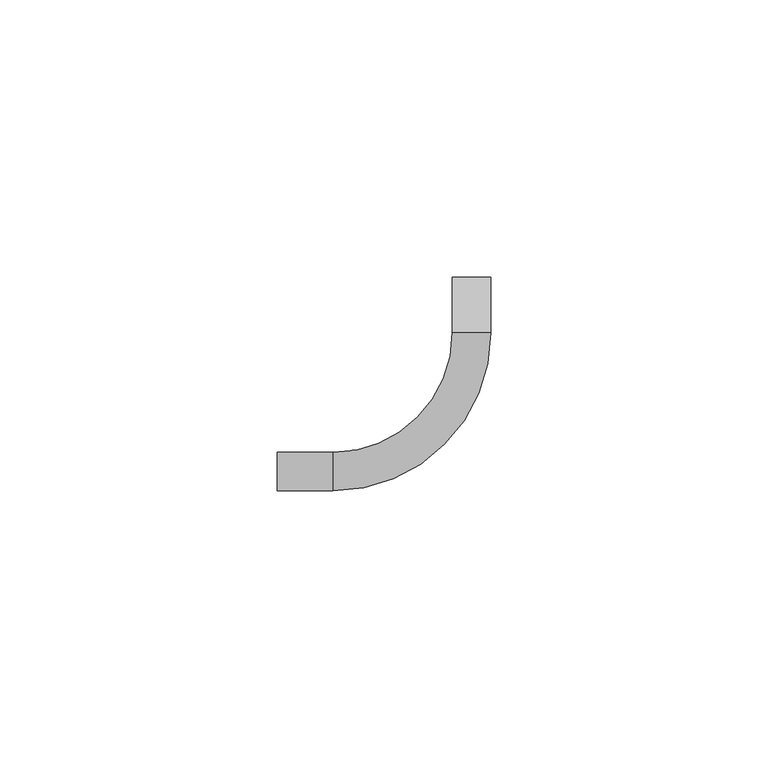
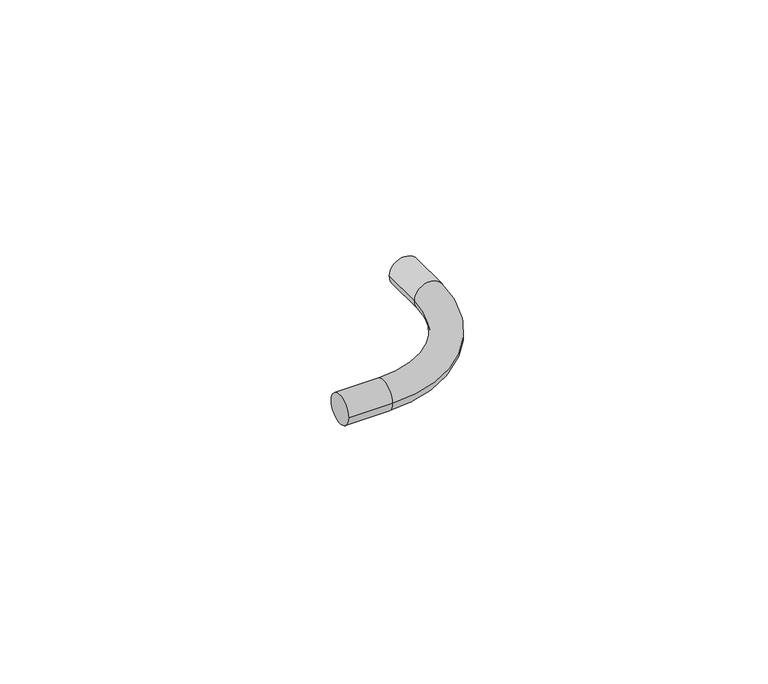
"""IFC4 building model written with IfcOpenShell, lengths in millimetres: cable carrier fitting geometry, Danfoss Elbow : DEVIaqua™ 9T, 230V."""

from ifc_helpers import new_model, si_unit, point, frame, origin, place, context, project, spatial, circle_curve, ellipse_curve, trimmed, source, transform, mapped, element, save
from ifc_brep_helpers import plane_surface, cylinder_surface, revolved_surface, advanced_brep


def cable_carrier_fitting_e4b1aeb6(model_context):
    return source(origin(), model_context, "Body", "AdvancedBrep", [
        advanced_brep(
        [(-35.0, -3.45, 0.0), (-35.0, 3.45, 0.0), (-25.0, -3.45, 0.0), (-25.0, 3.45, 0.0), (-3.45, 25.0, 0.0), (3.45, 25.0, 0.0), (3.45, 35.0, 0.0), (-3.45, 35.0, 0.0)],
        [
            (0, 1, circle_curve(frame((-35.0, 0.0, 0.0), z_axis=(-1.0, 0.0, 0.0), x_axis=(0.0, 1.0, 0.0)), 3.45)),
            (1, 0, circle_curve(frame((-35.0, 0.0, 0.0), z_axis=(-1.0, 0.0, 0.0), x_axis=(0.0, 1.0, 0.0)), 3.45)),
            (0, 2),
            (2, 3, circle_curve(frame((-25.0, 0.0, 0.0), z_axis=(-1.0, 0.0, 0.0), x_axis=(0.0, 1.0, 0.0)), 3.45)),
            (3, 1),
            (3, 2, circle_curve(frame((-25.0, 0.0, 0.0), z_axis=(-1.0, 0.0, 0.0), x_axis=(0.0, 1.0, 0.0)), 3.45)),
            (4, 3, circle_curve(frame((-25.0, 25.0, 0.0), z_axis=(0.0, 0.0, -1.0), x_axis=(0.0, -1.0, 0.0)), 21.55)),
            (2, 5, circle_curve(frame((-25.0, 25.0, 0.0), z_axis=(0.0, 0.0, 1.0), x_axis=(0.0, -1.0, 0.0)), 28.45)),
            (5, 4, circle_curve(frame((0.0, 25.0, 0.0), z_axis=(0.0, -1.0, 0.0), x_axis=(-1.0, 0.0, 0.0)), 3.45)),
            (4, 5, circle_curve(frame((0.0, 25.0, 0.0), z_axis=(0.0, -1.0, 0.0), x_axis=(-1.0, 0.0, 0.0)), 3.45)),
            (6, 7, circle_curve(frame((0.0, 35.0, 0.0), z_axis=(0.0, 1.0, 0.0), x_axis=(-1.0, 0.0, 0.0)), 3.45)),
            (7, 6, circle_curve(frame((0.0, 35.0, 0.0), z_axis=(0.0, 1.0, 0.0), x_axis=(-1.0, 0.0, 0.0)), 3.45)),
            (5, 6),
            (7, 4),
        ],
        [
            plane_surface(frame((-35.0, 0.0, 0.0), z_axis=(-1.0, 0.0, 0.0), x_axis=(0.0, 0.0, 1.0))),
            cylinder_surface(frame((-35.0, 0.0, 0.0), z_axis=(-1.0, 0.0, 0.0), x_axis=(0.0, 1.0, 0.0)), 3.45),
            revolved_surface(trimmed(ellipse_curve(frame((-25.0, 0.0, 0.0), z_axis=(-1.0, 0.0, 0.0), x_axis=(0.0, 1.0, 0.0)), 3.45, 3.45), [point((-25.0, -3.45, 0.0))], [point((-25.0, 3.45, 0.0))], True, "CARTESIAN"), (-25.0, 25.0, 0.0), (0.0, 0.0, 1.0)),
            revolved_surface(trimmed(ellipse_curve(frame((-25.0, 0.0, 0.0), z_axis=(-1.0, 0.0, 0.0), x_axis=(0.0, 1.0, 0.0)), 3.45, 3.45), [point((-25.0, 3.45, 0.0))], [point((-25.0, -3.45, 0.0))], True, "CARTESIAN"), (-25.0, 25.0, 0.0), (0.0, 0.0, 1.0)),
            plane_surface(frame((0.0, 35.0, 0.0), z_axis=(0.0, 1.0, 0.0), x_axis=(0.0, 0.0, 1.0))),
            cylinder_surface(frame((0.0, 25.0, 0.0), z_axis=(0.0, -1.0, 0.0), x_axis=(-1.0, 0.0, 0.0)), 3.45),
        ],
        [
            (0, [[1, 2]]),
            (1, [[-1, 3, 4, 5]]),
            (1, [[-2, -5, 6, -3]]),
            (2, [[7, -4, 8, 9]]),
            (3, [[-8, -6, -7, 10]]),
            (4, [[11, 12]]),
            (5, [[-9, 13, -12, 14]]),
            (5, [[-10, -14, -11, -13]]),
        ],
    ),
    ])


if __name__ == "__main__":
    model = new_model("IFC4")
    model_context = context("Model", 3, world=origin())
    ifc_project = project(units=[si_unit("LENGTHUNIT", "METRE", prefix="MILLI")], contexts=[model_context])
    site = spatial("IfcSite", under=ifc_project)
    building = spatial("IfcBuilding", under=site)
    placement = place(None, origin())
    cable_carrier_fitting_shape = cable_carrier_fitting_e4b1aeb6(model_context)
    element("IfcCableCarrierFitting", 1, ObjectType="Danfoss Elbow : DEVIaqua™ 9T, 230V", at=placement, inside=building, context=model_context, shape_type="MappedRepresentation", body=[
        mapped(cable_carrier_fitting_shape, transform((0.0, 0.0, 0.0), x_axis=(1.0, 0.0, 0.0), y_axis=(0.0, 1.0, 0.0), z_axis=(0.0, 0.0, 1.0))),
    ])
    save(model, "model.ifc")
